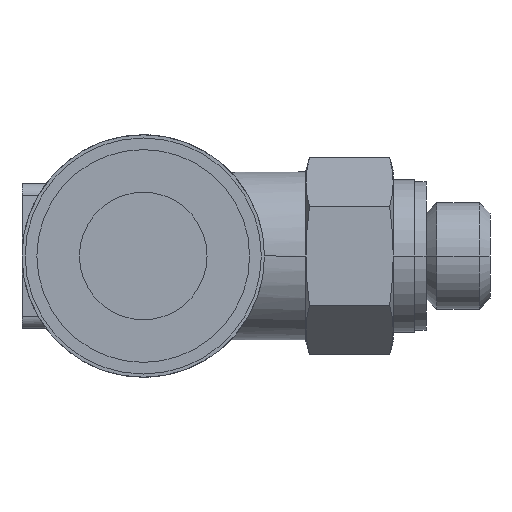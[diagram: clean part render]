
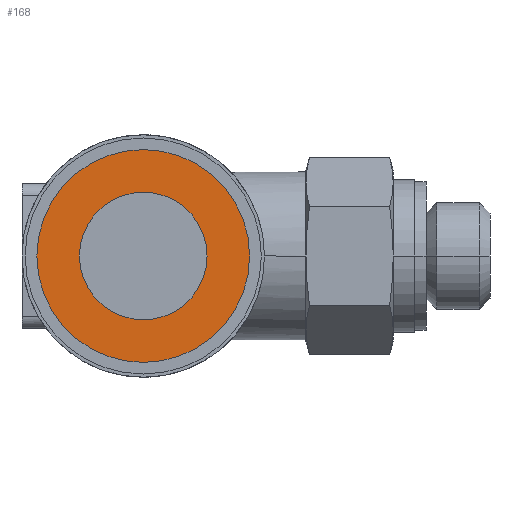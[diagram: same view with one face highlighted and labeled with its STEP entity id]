
A CAD part, left-side view. The second image highlights one B-rep face of the part: STEP entity #168.
In plain terms, the highlighted planar face has unit normal (-1, 0, 0).
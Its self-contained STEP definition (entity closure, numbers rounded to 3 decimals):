
#168 = ADVANCED_FACE( '', ( #367, #368 ), #369, .T. );
#367 = FACE_BOUND( '', #567, .T. );
#368 = FACE_OUTER_BOUND( '', #568, .T. );
#369 = PLANE( '', #569 );
#567 = EDGE_LOOP( '', ( #1277, #1278 ) );
#568 = EDGE_LOOP( '', ( #1279, #1280 ) );
#569 = AXIS2_PLACEMENT_3D( '', #1281, #1282, #1283 );
#1277 = ORIENTED_EDGE( '', *, *, #1369, .T. );
#1278 = ORIENTED_EDGE( '', *, *, #1365, .T. );
#1279 = ORIENTED_EDGE( '', *, *, #1287, .T. );
#1280 = ORIENTED_EDGE( '', *, *, #1499, .T. );
#1281 = CARTESIAN_POINT( '', ( -14.7, 15.8, 0. ) );
#1282 = DIRECTION( '', ( -1., 0., 0. ) );
#1283 = DIRECTION( '', ( 0., 1., 0. ) );
#1287 = EDGE_CURVE( '', #1501, #1505, #1507, .T. );
#1365 = EDGE_CURVE( '', #1657, #1654, #1658, .T. );
#1369 = EDGE_CURVE( '', #1654, #1657, #1663, .T. );
#1499 = EDGE_CURVE( '', #1505, #1501, #1851, .T. );
#1501 = VERTEX_POINT( '', #1853 );
#1505 = VERTEX_POINT( '', #1858 );
#1507 = CIRCLE( '', #1861, 5. );
#1654 = VERTEX_POINT( '', #2165 );
#1657 = VERTEX_POINT( '', #2169 );
#1658 = CIRCLE( '', #2170, 3. );
#1663 = CIRCLE( '', #2176, 3. );
#1851 = CIRCLE( '', #2776, 5. );
#1853 = CARTESIAN_POINT( '', ( -14.7, 18.3, 0. ) );
#1858 = CARTESIAN_POINT( '', ( -14.7, 8.3, 0. ) );
#1861 = AXIS2_PLACEMENT_3D( '', #2782, #2783, #2784 );
#2165 = CARTESIAN_POINT( '', ( -14.7, 16.3, 0. ) );
#2169 = CARTESIAN_POINT( '', ( -14.7, 10.3, 0. ) );
#2170 = AXIS2_PLACEMENT_3D( '', #2916, #2917, #2918 );
#2176 = AXIS2_PLACEMENT_3D( '', #2926, #2927, #2928 );
#2776 = AXIS2_PLACEMENT_3D( '', #3136, #3137, #3138 );
#2782 = CARTESIAN_POINT( '', ( -14.7, 13.3, 0. ) );
#2783 = DIRECTION( '', ( -1., 0., 0. ) );
#2784 = DIRECTION( '', ( 0., 1., 0. ) );
#2916 = CARTESIAN_POINT( '', ( -14.7, 13.3, 0. ) );
#2917 = DIRECTION( '', ( 1., 0., 0. ) );
#2918 = DIRECTION( '', ( 0., 1., 0. ) );
#2926 = CARTESIAN_POINT( '', ( -14.7, 13.3, 0. ) );
#2927 = DIRECTION( '', ( 1., 0., 0. ) );
#2928 = DIRECTION( '', ( 0., 1., 0. ) );
#3136 = CARTESIAN_POINT( '', ( -14.7, 13.3, 0. ) );
#3137 = DIRECTION( '', ( -1., 0., 0. ) );
#3138 = DIRECTION( '', ( 0., 1., 0. ) );
